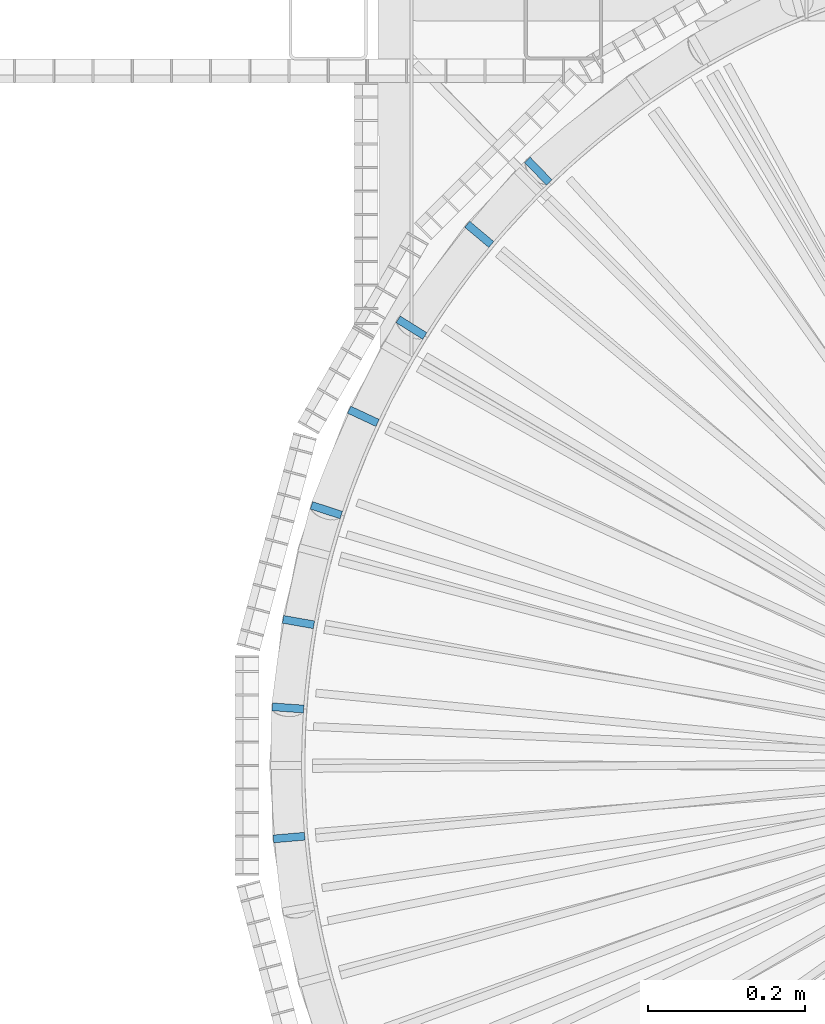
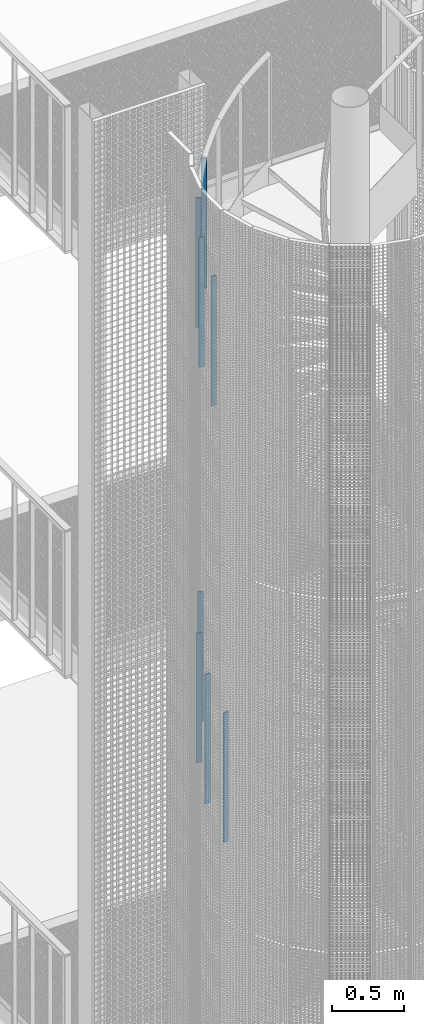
# One storey, part 45 of 1183: 8 columns, 8 elements without a shape of their own.
"""IFC2X3 building model written with IfcOpenShell, lengths in millimetres."""

from ifc_helpers import new_model, si_unit, frame, origin_with_axes, origin_2d_with_axis, place, context, subcontext, project, spatial, rectangle, extrude, material, type_object, element, aggregate, save


model = new_model("IFC2X3")

# Units and contexts
model_context = context("Model", 3, precision=1e-05, world=origin_with_axes())
body_context = subcontext(model_context, "Body", "Model", "MODEL_VIEW")
ifc_project = project(units=[si_unit("LENGTHUNIT", "METRE", prefix="MILLI"), si_unit("AREAUNIT", "SQUARE_METRE"), si_unit("VOLUMEUNIT", "CUBIC_METRE"), si_unit("MASSUNIT", "GRAM", prefix="KILO"), si_unit("TIMEUNIT", "SECOND"), si_unit("PLANEANGLEUNIT", "RADIAN"), si_unit("SOLIDANGLEUNIT", "STERADIAN"), si_unit("THERMODYNAMICTEMPERATUREUNIT", "DEGREE_CELSIUS"), si_unit("LUMINOUSINTENSITYUNIT", "LUMEN")], contexts=[model_context])

# Site, building, storey
site_placement = place(None, origin_with_axes())
site = spatial("IfcSite", under=ifc_project, at=site_placement, Name="Undefined", CompositionType="ELEMENT")
building_placement = place(site_placement, origin_with_axes())
building = spatial("IfcBuilding", under=site, at=building_placement, Name="Undefined", CompositionType="ELEMENT")
storey_placement = place(building_placement, origin_with_axes())
storey = spatial("IfcBuildingStorey", under=building, at=storey_placement, Name="Undefined", CompositionType="ELEMENT", Elevation=0.0)

# Assembly, column
assembly_1_placement = place(storey_placement, origin_with_axes())
assembly_1 = element("IfcElementAssembly", 1, at=assembly_1_placement, inside=storey, Name="MONTANT", AssemblyPlace="NOTDEFINED", PredefinedType="NOTDEFINED")
ifc_material = material(Name="STEEL/S235JR")
column_type = type_object("IfcColumnType", Name="PL10*40", PredefinedType="NOTDEFINED")
column_1_placement = place(assembly_1_placement, frame((20867.8300775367, 758.18414955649, 16663.88), z_axis=(0.0, 0.0, 1.0), x_axis=(0.694658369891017, -0.719339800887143, 0.0)))
column_1 = element("IfcColumn", 2, at=column_1_placement, type_object=column_type, material=ifc_material, Name="MONTANT", context=body_context, shape_type="SweptSolid", body=[
    extrude(rectangle(XDim=10.0, YDim=40.0, at=origin_2d_with_axis()), frame((0.0, 0.0, 1100.0), z_axis=(0.0, 0.0, -1.0), x_axis=(0.0, 1.0, 0.0)), (0.0, 0.0, 1.0), 1100.0),
])
aggregate(assembly_1, [column_1])

assembly_2_placement = place(storey_placement, origin_with_axes())
assembly_2 = element("IfcElementAssembly", 3, at=assembly_2_placement, inside=storey, Name="MONTANT", AssemblyPlace="NOTDEFINED", PredefinedType="NOTDEFINED")
column_2_placement = place(assembly_2_placement, frame((20597.5864318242, 325.703912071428, 16350.84), z_axis=(0.0, 0.0, 1.0), x_axis=(0.951056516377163, -0.309016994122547, 0.0)))
column_2 = element("IfcColumn", 4, at=column_2_placement, type_object=column_type, material=ifc_material, Name="MONTANT", context=body_context, shape_type="SweptSolid", body=[
    extrude(rectangle(XDim=10.0, YDim=40.0, at=origin_2d_with_axis()), frame((0.0, 0.0, 1100.0), z_axis=(0.0, 0.0, -1.0), x_axis=(0.0, 1.0, 0.0)), (0.0, 0.0, 1.0), 1100.0),
])
aggregate(assembly_2, [column_2])

assembly_3_placement = place(storey_placement, origin_with_axes())
assembly_3 = element("IfcElementAssembly", 5, at=assembly_3_placement, inside=storey, Name="MONTANT", AssemblyPlace="NOTDEFINED", PredefinedType="NOTDEFINED")
column_3_placement = place(assembly_3_placement, frame((20706.1573066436, 558.534904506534, 16507.36), z_axis=(0.0, 0.0, 1.0), x_axis=(0.848048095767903, -0.529919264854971, 0.0)))
column_3 = element("IfcColumn", 6, at=column_3_placement, type_object=column_type, material=ifc_material, Name="MONTANT", context=body_context, shape_type="SweptSolid", body=[
    extrude(rectangle(XDim=10.0, YDim=40.0, at=origin_2d_with_axis()), frame((0.0, 0.0, 1100.0), z_axis=(0.0, 0.0, -1.0), x_axis=(0.0, 1.0, 0.0)), (0.0, 0.0, 1.0), 1100.0),
])
aggregate(assembly_3, [column_3])

assembly_4_placement = place(storey_placement, origin_with_axes())
assembly_4 = element("IfcElementAssembly", 7, at=assembly_4_placement, inside=storey, Name="MONTANT", AssemblyPlace="NOTDEFINED", PredefinedType="NOTDEFINED")
column_4_placement = place(assembly_4_placement, frame((20548.5674910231, 73.5233233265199, 16194.32), z_axis=(0.0, 0.0, 1.0), x_axis=(0.997564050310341, -0.069756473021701, 0.0)))
column_4 = element("IfcColumn", 8, at=column_4_placement, type_object=column_type, material=ifc_material, Name="MONTANT", context=body_context, shape_type="SweptSolid", body=[
    extrude(rectangle(XDim=10.0, YDim=40.0, at=origin_2d_with_axis()), frame((0.0, 0.0, 1100.0), z_axis=(0.0, 0.0, -1.0), x_axis=(0.0, 1.0, 0.0)), (0.0, 0.0, 1.0), 1100.0),
])
aggregate(assembly_4, [column_4])

assembly_5_placement = place(storey_placement, origin_with_axes())
assembly_5 = element("IfcElementAssembly", 9, at=assembly_5_placement, inside=storey, Name="MONTANT", AssemblyPlace="NOTDEFINED", PredefinedType="NOTDEFINED")
column_5_placement = place(assembly_5_placement, frame((20792.5891569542, 677.498140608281, 13063.88), z_axis=(0.0, 0.0, 1.0), x_axis=(0.766044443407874, -0.642787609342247, 0.0)))
column_5 = element("IfcColumn", 10, at=column_5_placement, type_object=column_type, material=ifc_material, Name="MONTANT", context=body_context, shape_type="SweptSolid", body=[
    extrude(rectangle(XDim=10.0, YDim=40.0, at=origin_2d_with_axis()), frame((0.0, 0.0, 1100.0), z_axis=(0.0, 0.0, -1.0), x_axis=(0.0, 1.0, 0.0)), (0.0, 0.0, 1.0), 1100.0),
])
aggregate(assembly_5, [column_5])

assembly_6_placement = place(storey_placement, origin_with_axes())
assembly_6 = element("IfcElementAssembly", 11, at=assembly_6_placement, inside=storey, Name="MONTANT", AssemblyPlace="NOTDEFINED", PredefinedType="NOTDEFINED")
column_6_placement = place(assembly_6_placement, frame((20562.0126283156, 183.025179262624, 12750.84), z_axis=(0.0, 0.0, 1.0), x_axis=(0.984807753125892, -0.173648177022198, 0.0)))
column_6 = element("IfcColumn", 12, at=column_6_placement, type_object=column_type, material=ifc_material, Name="MONTANT", context=body_context, shape_type="SweptSolid", body=[
    extrude(rectangle(XDim=10.0, YDim=40.0, at=origin_2d_with_axis()), frame((0.0, 0.0, 1100.0), z_axis=(0.0, 0.0, -1.0), x_axis=(0.0, 1.0, 0.0)), (0.0, 0.0, 1.0), 1100.0),
])
aggregate(assembly_6, [column_6])

assembly_7_placement = place(storey_placement, origin_with_axes())
assembly_7 = element("IfcElementAssembly", 13, at=assembly_7_placement, inside=storey, Name="MONTANT", AssemblyPlace="NOTDEFINED", PredefinedType="NOTDEFINED")
column_7_placement = place(assembly_7_placement, frame((20644.7515924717, 445.439647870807, 12907.36), z_axis=(0.0, 0.0, 1.0), x_axis=(0.906307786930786, -0.422618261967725, 0.0)))
column_7 = element("IfcColumn", 14, at=column_7_placement, type_object=column_type, material=ifc_material, Name="MONTANT", context=body_context, shape_type="SweptSolid", body=[
    extrude(rectangle(XDim=10.0, YDim=40.0, at=origin_2d_with_axis()), frame((0.0, 0.0, 1100.0), z_axis=(0.0, 0.0, -1.0), x_axis=(0.0, 1.0, 0.0)), (0.0, 0.0, 1.0), 1100.0),
])
aggregate(assembly_7, [column_7])

assembly_8_placement = place(storey_placement, origin_with_axes())
assembly_8 = element("IfcElementAssembly", 15, at=assembly_8_placement, inside=storey, Name="MONTANT", AssemblyPlace="NOTDEFINED", PredefinedType="NOTDEFINED")
column_8_placement = place(assembly_8_placement, frame((20550.0107882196, -91.8621528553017, 12594.32), z_axis=(0.0, 0.0, 1.0), x_axis=(0.996194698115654, 0.087155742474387, 3.2515890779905e-10)))
column_8 = element("IfcColumn", 16, at=column_8_placement, type_object=column_type, material=ifc_material, Name="MONTANT", context=body_context, shape_type="SweptSolid", body=[
    extrude(rectangle(XDim=10.0, YDim=40.0, at=origin_2d_with_axis()), frame((0.0, 0.0, 1100.0), z_axis=(0.0, 0.0, -1.0), x_axis=(0.0, 1.0, 0.0)), (0.0, 0.0, 1.0), 1100.0),
])
aggregate(assembly_8, [column_8])

save(model, "model.ifc")
